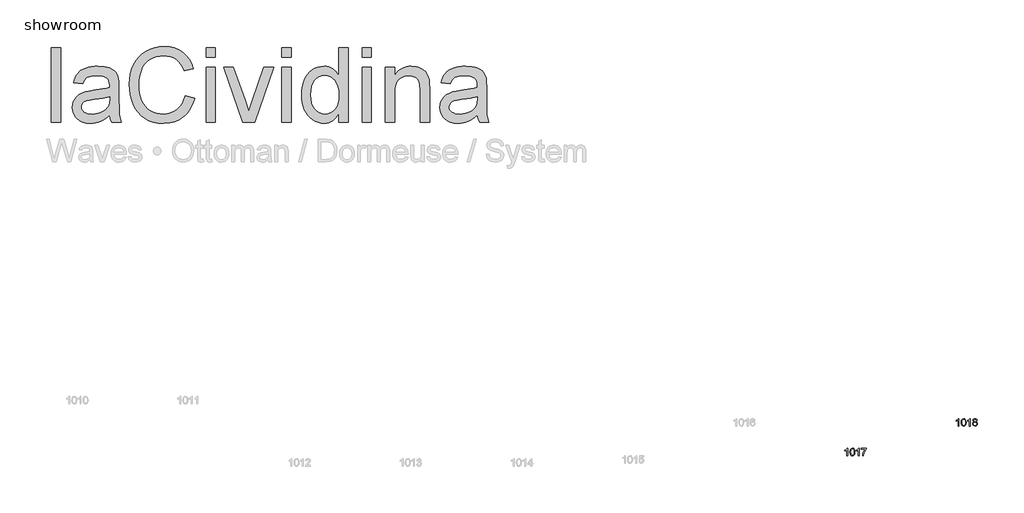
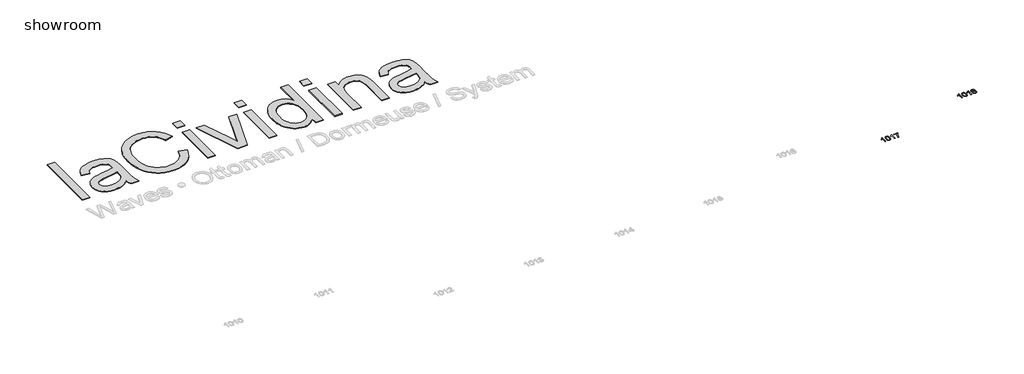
# One storey, part 3 of 3: 3 proxies.
"""IFC4 building model written with IfcOpenShell, lengths in millimetres."""

from ifc_helpers import new_model, si_unit, origin, origin_with_axes, place, context, project, spatial, polyline, outline, extrude, element, save

model = new_model("IFC4")

# Units and contexts
model_context = context("Model", 3, world=origin())
ifc_project = project(units=[si_unit("LENGTHUNIT", "METRE", prefix="MILLI")], contexts=[model_context])

# Site, building, storey
site = spatial("IfcSite", under=ifc_project)
building = spatial("IfcBuilding", under=site)
storey = spatial("IfcBuildingStorey", under=building, Name="showroom", Elevation=0.0)

# Proxies
placement = place(None, origin())
element("IfcBuildingElementProxy", 1, Name="1000mm Arial", ObjectType="1000mm Arial", at=placement, inside=storey, context=model_context, shape_type="SweptSolid", body=[
    extrude(outline(polyline([(-1952.8965336, 4695.1020807), (-1952.8965336, 5699.6651822), (-1827.326146, 5699.6651822), (-1827.326146, 4695.1020807), (-1952.8965336, 4695.1020807)])), origin_with_axes(), (0.0, 0.0, 1.0), 10.0),
    extrude(outline(polyline([(-1168.0816106, 4789.2798714), (-1197.8570596, 4761.3361682), (-1228.0770326, 4737.8377058), (-1258.7415298, 4718.7844841), (-1289.850551, 4704.1765032), (-1321.7566499, 4693.3393128), (-1354.81238, 4685.5984625), (-1389.0177413, 4680.9539523), (-1424.3727339, 4679.4057822), (-1480.283133, 4683.1305874), (-1529.311073, 4694.305003), (-1571.4565541, 4712.929029), (-1606.7195762, 4739.0026654), (-1634.5636447, 4770.8704433), (-1654.4522651, 4806.8768935), (-1666.3854373, 4847.0220163), (-1670.3631613, 4891.3058114), (-1664.3544221, 4943.3611138), (-1656.843498, 4967.5953402), (-1646.3282043, 4990.6339501), (-1618.5224569, 5031.1009696), (-1583.1751285, 5062.7388212), (-1541.6351199, 5086.6511509), (-1495.2513316, 5103.9416046), (-1450.0631599, 5113.5678502), (-1386.6035157, 5122.8262137), (-1258.2126994, 5142.6918415), (-1208.6406006, 5153.9122423), (-1168.8173746, 5165.9910345), (-1168.0816106, 5193.9500661), (-1170.2429173, 5224.3923012), (-1176.7268375, 5249.9907567), (-1187.5333711, 5270.7454326), (-1202.6625181, 5286.6563289), (-1228.8127966, 5302.5365684), (-1260.665246, 5313.8795966), (-1298.2198664, 5320.6854135), (-1341.4766577, 5322.9540191), (-1381.6984225, 5321.4441701), (-1416.27933, 5316.914623), (-1445.2193803, 5309.3653779), (-1468.5185733, 5298.7964348), (-1487.6637655, 5284.3800591), (-1504.1418132, 5265.2885164), (-1517.9527164, 5241.5218066), (-1529.0964752, 5213.0799299), (-1654.6668629, 5228.7762283), (-1645.1095952, 5264.9512912), (-1632.8698547, 5297.4475341), (-1617.9476412, 5326.2649571), (-1600.3429549, 5351.4035601), (-1579.2970391, 5373.3691809), (-1554.0511372, 5392.6676572), (-1524.6052492, 5409.2989891), (-1490.959375, 5423.2631765), (-1453.7956293, 5434.3149647), (-1413.7961265, 5442.2090992), (-1370.9608667, 5446.9455799), (-1325.2898499, 5448.5244068), (-1240.4010795, 5442.9448632), (-1204.5555776, 5435.9704337), (-1173.1093312, 5426.2062324), (-1122.3722727, 5401.0369726), (-1102.8208775, 5386.3140286), (-1087.1475717, 5370.1655418), (-1063.787065, 5331.9977848), (-1048.6425895, 5284.9395463), (-1044.0440646, 5241.5294708), (-1042.5112229, 5175.065457), (-1042.5112229, 5018.8382364), (-1040.9170676, 4882.752555), (-1036.1346017, 4800.6842133), (-1026.6922971, 4746.7588442), (-1011.118626, 4695.1020807), (-1136.6890137, 4695.1020807), (-1156.7998961, 4738.7574108), (-1168.0816106, 4789.2798714)]), holes=[polyline([(-1168.0816106, 5040.4206468), (-1252.4492148, 5019.5126868), (-1370.6619626, 5001.9156646), (-1435.8077326, 4992.2894191), (-1478.6966419, 4981.5595276), (-1506.8089577, 4967.6413254), (-1527.6249472, 4948.450148), (-1540.500817, 4925.4575233), (-1544.7927737, 4900.1349793), (-1542.4551901, 4880.6219052), (-1535.4424396, 4862.7949568), (-1523.7545221, 4846.6541343), (-1507.3914375, 4832.1994375), (-1486.50647, 4820.2892579), (-1461.2529039, 4811.7819868), (-1431.6307391, 4806.6776241), (-1397.6399756, 4804.9761699), (-1362.9364407, 4806.8539009), (-1330.1949431, 4812.487094), (-1299.4154829, 4821.8757491), (-1270.5980599, 4835.0198662), (-1244.6010656, 4850.8311278), (-1222.2828912, 4868.2212162), (-1203.6435368, 4887.1901316), (-1188.6830023, 4907.7378739), (-1179.9917902, 4926.1319736), (-1173.7837815, 4948.450148), (-1168.8173746, 5004.8587206), (-1168.0816106, 5040.4206468)])]), origin_with_axes(), (0.0, 0.0, 1.0), 10.0),
    extrude(outline(polyline([(-147.8222106, 5052.1928707), (-22.2518229, 5019.8192551), (-47.099186, 4941.7286374), (-80.1932372, 4873.4941915), (-121.5339764, 4815.1159174), (-145.296854, 4789.6228448), (-171.1214037, 4766.5938151), (-227.8365446, 4728.4490507), (-290.5604248, 4701.2027904), (-359.2930442, 4684.8550343), (-434.0344029, 4679.4057822), (-510.6075073, 4683.5291262), (-579.6850161, 4695.8991583), (-641.2669293, 4716.5158785), (-695.3532468, 4745.3792867), (-742.6873968, 4782.0601873), (-784.0128076, 4826.1293846), (-819.3294792, 4877.5868787), (-848.6374114, 4936.4326695), (-871.6530288, 5000.1222399), (-888.0927554, 5066.1110728), (-897.9565914, 5134.3991682), (-901.2445368, 5204.986526), (-897.5273958, 5280.7242317), (-886.3759728, 5351.4648737), (-867.7902678, 5417.208452), (-841.7702809, 5477.9549664), (-808.8984918, 5532.7004058), (-769.7573803, 5580.4407589), (-724.3469465, 5621.1760257), (-672.6671904, 5654.9062061), (-616.4732157, 5681.3553887), (-557.5201259, 5700.247662), (-495.8079212, 5711.583026), (-431.3366016, 5715.3614806), (-359.5153062, 5710.4717158), (-293.6567649, 5695.8024212), (-233.7609776, 5671.353597), (-179.8279442, 5637.125243), (-132.746713, 5594.0217359), (-93.4063322, 5542.9474522), (-61.8068016, 5483.902392), (-37.9481214, 5416.8865552), (-163.5185091, 5386.9654863), (-183.2921663, 5436.3459799), (-207.0512119, 5478.5374462), (-234.7956457, 5513.5398852), (-266.5254677, 5541.3532969), (-302.4246191, 5562.5448327), (-342.6770407, 5577.6816439), (-387.2827327, 5586.7637307), (-436.2416949, 5589.7910929), (-492.5736254, 5586.4341697), (-544.0924331, 5576.3634001), (-590.7981181, 5559.5787841), (-632.6906803, 5536.0803216), (-669.2412893, 5506.9256735), (-699.9211149, 5473.1725005), (-724.7301569, 5434.8208025), (-743.6684155, 5391.8705795), (-757.6709239, 5346.2685406), (-767.6727157, 5299.9613944), (-773.6737907, 5252.9491411), (-775.6741491, 5205.2317807), (-773.3059087, 5145.2670154), (-766.2011877, 5089.2263248), (-754.359986, 5037.1097089), (-737.7823036, 4988.9171675), (-716.1998932, 4945.6067268), (-689.3445075, 4908.1364127), (-657.2161466, 4876.5062253), (-619.8148104, 4850.7161646), (-578.9569164, 4830.7049169), (-536.4588817, 4816.4111686), (-492.3207065, 4807.8349196), (-446.5423907, 4804.9761699), (-391.9502355, 4808.8695877), (-341.7266789, 4820.549841), (-295.8717211, 4840.0169299), (-254.3853619, 4867.2708544), (-218.2486201, 4902.1889871), (-188.4425143, 4944.6487007), (-164.9670445, 4994.6499952), (-147.8222106, 5052.1928707)])), origin_with_axes(), (0.0, 0.0, 1.0), 10.0),
    extrude(outline(polyline([(134.7111617, 4695.1020807), (134.7111617, 5432.8281083), (260.2815493, 5432.8281083), (260.2815493, 4695.1020807), (134.7111617, 4695.1020807)])), origin_with_axes(), (0.0, 0.0, 1.0), 10.0),
    extrude(outline(polyline([(134.7111617, 5574.0947945), (134.7111617, 5699.6651822), (260.2815493, 5699.6651822), (260.2815493, 5574.0947945), (134.7111617, 5574.0947945)])), origin_with_axes(), (0.0, 0.0, 1.0), 10.0),
    extrude(outline(polyline([(629.6350725, 4695.1020807), (370.1556386, 5432.8281083), (503.0836662, 5432.8281083), (660.2919054, 4990.8792048), (707.6260555, 4842.2548787), (753.9791869, 4982.5405462), (912.1684448, 5432.8281083), (1045.0964724, 5432.8281083), (788.8053491, 4695.1020807), (629.6350725, 4695.1020807)])), origin_with_axes(), (0.0, 0.0, 1.0), 10.0),
    extrude(outline(polyline([(1154.9705616, 4695.1020807), (1154.9705616, 5432.8281083), (1280.5409493, 5432.8281083), (1280.5409493, 4695.1020807), (1154.9705616, 4695.1020807)])), origin_with_axes(), (0.0, 0.0, 1.0), 10.0),
    extrude(outline(polyline([(1154.9705616, 5574.0947945), (1154.9705616, 5699.6651822), (1280.5409493, 5699.6651822), (1280.5409493, 5574.0947945), (1154.9705616, 5574.0947945)])), origin_with_axes(), (0.0, 0.0, 1.0), 10.0),
    extrude(outline(polyline([(1924.0891862, 4695.1020807), (1924.0891862, 4813.5600831), (1906.2967268, 4782.1176688), (1886.5192374, 4754.8675765), (1864.7567182, 4731.809806), (1841.009169, 4712.9443574), (1815.2765898, 4698.2712308), (1787.5589807, 4687.790426), (1757.8563417, 4681.5019432), (1726.1686728, 4679.4057822), (1684.7206347, 4682.4408087), (1644.9893792, 4691.5458881), (1606.9749064, 4706.7210204), (1570.6772162, 4727.9662056), (1537.2306114, 4754.6453144), (1507.769395, 4786.1222176), (1482.2935668, 4822.3969152), (1460.8031269, 4863.4694071), (1443.7425994, 4908.5579442), (1431.5565083, 4956.8807771), (1424.2448537, 5008.4379059), (1421.8076355, 5063.2293305), (1424.0532485, 5117.0167439), (1430.7900875, 5168.2596401), (1442.0181526, 5216.9580192), (1457.7374436, 5263.1118812), (1477.9402965, 5305.3723254), (1502.6190471, 5342.3904512), (1531.7736952, 5374.1662585), (1565.4042409, 5400.6997474), (1602.322732, 5421.6230359), (1641.3412161, 5436.568242), (1682.4596932, 5445.5353656), (1725.6781635, 5448.5244068), (1757.2853582, 5446.3860927), (1787.1144567, 5439.9711504), (1815.1654588, 5429.2795799), (1841.4383646, 5414.3113812), (1865.6419342, 5395.9249457), (1887.4849277, 5374.9786646), (1906.967345, 5351.4725379), (1924.0891862, 5325.4065657), (1924.0891862, 5699.6651822), (2049.6595739, 5699.6651822), (2049.6595739, 4695.1020807), (1924.0891862, 4695.1020807)]), holes=[polyline([(1547.3780231, 5063.7198398), (1550.9188873, 5002.8277054), (1561.54148, 4950.1362738), (1579.245801, 4905.645545), (1604.0318504, 4869.3555191), (1633.6310226, 4841.1895538), (1665.7747119, 4821.0710072), (1700.4629184, 4808.9998792), (1737.695642, 4804.9761699), (1775.1046424, 4808.8159382), (1809.5859152, 4820.3352432), (1841.1394605, 4839.5340848), (1869.7652782, 4866.4124631), (1893.531988, 4901.1849758), (1910.5082092, 4944.0662209), (1920.693942, 4995.0561983), (1924.0891862, 5054.154908), (1920.6326283, 5118.9481244), (1910.2629545, 5174.5136341), (1892.980165, 5220.851437), (1868.7842596, 5257.9615333), (1839.5299768, 5286.3957458), (1807.0720549, 5306.7058977), (1771.410494, 5318.8919887), (1732.545294, 5322.9540191), (1694.5768065, 5319.0529371), (1659.8886, 5307.3496911), (1628.4806747, 5287.8442812), (1600.3530304, 5260.5367073), (1577.1764647, 5224.8291611), (1560.621775, 5180.1238345), (1550.6889611, 5126.4207274), (1547.3780231, 5063.7198398)])]), origin_with_axes(), (0.0, 0.0, 1.0), 10.0),
    extrude(outline(polyline([(2238.0151554, 4695.1020807), (2238.0151554, 5432.8281083), (2363.5855431, 5432.8281083), (2363.5855431, 4695.1020807), (2238.0151554, 4695.1020807)])), origin_with_axes(), (0.0, 0.0, 1.0), 10.0),
    extrude(outline(polyline([(2238.0151554, 5574.0947945), (2238.0151554, 5699.6651822), (2363.5855431, 5699.6651822), (2363.5855431, 5574.0947945), (2238.0151554, 5574.0947945)])), origin_with_axes(), (0.0, 0.0, 1.0), 10.0),
    extrude(outline(polyline([(2551.9411246, 4695.1020807), (2551.9411246, 5432.8281083), (2677.5115123, 5432.8281083), (2677.5115123, 5329.8211497), (2698.2278672, 5357.6422256), (2721.1361856, 5381.7538247), (2746.2364675, 5402.155947), (2773.5287131, 5418.8485925), (2803.0129221, 5431.8317613), (2834.6890948, 5441.1054532), (2868.5572309, 5446.6696684), (2904.6173307, 5448.5244068), (2966.5134764, 5442.5463244), (2995.5071761, 5435.0737213), (3023.1979605, 5424.6120771), (3048.5358329, 5411.7208789), (3070.4707968, 5396.9596138), (3089.0028523, 5380.3282819), (3104.1319994, 5361.8268833), (3126.9713399, 5319.305856), (3141.7785902, 5269.4885025), (3146.7449972, 5221.8477841), (3148.4004661, 5148.0874441), (3148.4004661, 4695.1020807), (3022.8300785, 4695.1020807), (3022.8300785, 5131.1648723), (3019.2125722, 5196.0960444), (3008.3600533, 5242.2652348), (2999.7378191, 5259.7319654), (2988.3411414, 5275.3439576), (2974.1700204, 5289.1012113), (2957.224456, 5301.0037267), (2917.3399163, 5317.466446), (2871.0174418, 5322.9540191), (2832.8880058, 5319.8730074), (2797.4716996, 5310.6299723), (2764.7685231, 5295.2249137), (2734.7784762, 5273.6578318), (2709.7241795, 5243.4761797), (2691.8282533, 5202.227411), (2681.0906976, 5149.9115256), (2677.5115123, 5086.5285235), (2677.5115123, 4695.1020807), (2551.9411246, 4695.1020807)])), origin_with_axes(), (0.0, 0.0, 1.0), 10.0),
    extrude(outline(polyline([(3791.948703, 4789.2798714), (3762.1732541, 4761.3361682), (3731.953281, 4737.8377058), (3701.2887839, 4718.7844841), (3670.1797626, 4704.1765032), (3638.2736638, 4693.3393128), (3605.2179337, 4685.5984625), (3571.0125723, 4680.9539523), (3535.6575797, 4679.4057822), (3479.7471807, 4683.1305874), (3430.7192406, 4694.305003), (3388.5737595, 4712.929029), (3353.3107375, 4739.0026654), (3325.466669, 4770.8704433), (3305.5780486, 4806.8768935), (3293.6448764, 4847.0220163), (3289.6671523, 4891.3058114), (3295.6758915, 4943.3611138), (3303.1868156, 4967.5953402), (3313.7021093, 4990.6339501), (3341.5078568, 5031.1009696), (3376.8551852, 5062.7388212), (3418.3951938, 5086.6511509), (3464.778982, 5103.9416046), (3509.9671537, 5113.5678502), (3573.4267979, 5122.8262137), (3701.8176142, 5142.6918415), (3751.3897131, 5153.9122423), (3791.2129391, 5165.9910345), (3791.948703, 5193.9500661), (3789.7873963, 5224.3923012), (3783.3034762, 5249.9907567), (3772.4969425, 5270.7454326), (3757.3677955, 5286.6563289), (3731.217517, 5302.5365684), (3699.3650676, 5313.8795966), (3661.8104472, 5320.6854135), (3618.553656, 5322.9540191), (3578.3318912, 5321.4441701), (3543.7509836, 5316.914623), (3514.8109333, 5309.3653779), (3491.5117403, 5298.7964348), (3472.3665481, 5284.3800591), (3455.8885004, 5265.2885164), (3442.0775972, 5241.5218066), (3430.9338384, 5213.0799299), (3305.3634508, 5228.7762283), (3314.9207184, 5264.9512912), (3327.160459, 5297.4475341), (3342.0826724, 5326.2649571), (3359.6873587, 5351.4035601), (3380.7332745, 5373.3691809), (3405.9791764, 5392.6676572), (3435.4250645, 5409.2989891), (3469.0709386, 5423.2631765), (3506.2346843, 5434.3149647), (3546.2341871, 5442.2090992), (3589.0694469, 5446.9455799), (3634.7404638, 5448.5244068), (3719.6292342, 5442.9448632), (3755.4747361, 5435.9704337), (3786.9209824, 5426.2062324), (3837.6580409, 5401.0369726), (3857.2094361, 5386.3140286), (3872.882742, 5370.1655418), (3896.2432487, 5331.9977848), (3911.3877241, 5284.9395463), (3915.9862491, 5241.5294708), (3917.5190907, 5175.065457), (3917.5190907, 5018.8382364), (3919.113246, 4882.752555), (3923.895712, 4800.6842133), (3933.3380165, 4746.7588442), (3948.9116877, 4695.1020807), (3823.3413, 4695.1020807), (3803.2304176, 4738.7574108), (3791.948703, 4789.2798714)]), holes=[polyline([(3791.948703, 5040.4206468), (3707.5810988, 5019.5126868), (3589.368351, 5001.9156646), (3524.2225811, 4992.2894191), (3481.3336718, 4981.5595276), (3453.221356, 4967.6413254), (3432.4053664, 4948.450148), (3419.5294966, 4925.4575233), (3415.23754, 4900.1349793), (3417.5751235, 4880.6219052), (3424.587874, 4862.7949568), (3436.2757916, 4846.6541343), (3452.6388762, 4832.1994375), (3473.5238436, 4820.2892579), (3498.7774097, 4811.7819868), (3528.3995745, 4806.6776241), (3562.3903381, 4804.9761699), (3597.0938729, 4806.8539009), (3629.8353705, 4812.487094), (3660.6148308, 4821.8757491), (3689.4322537, 4835.0198662), (3715.429248, 4850.8311278), (3737.7474224, 4868.2212162), (3756.3867768, 4887.1901316), (3771.3473113, 4907.7378739), (3780.0385234, 4926.1319736), (3786.2465321, 4948.450148), (3791.2129391, 5004.8587206), (3791.948703, 5040.4206468)])]), origin_with_axes(), (0.0, 0.0, 1.0), 10.0),
])
element("IfcBuildingElementProxy", 2, Name="100mm Arial", ObjectType="100mm Arial", at=placement, inside=storey, context=model_context, shape_type="SweptSolid", body=[
    extrude(outline(polyline([(8791.8890391, 195.1020807), (8779.3320004, 195.1020807), (8779.3320004, 273.3873692), (8767.4371492, 264.9138206), (8754.2179228, 258.5739876), (8754.2179228, 270.4443133), (8772.6242853, 282.1920117), (8783.7956352, 295.5583908), (8791.8890391, 295.5583908), (8791.8890391, 195.1020807)])), origin_with_axes(), (0.0, 0.0, 1.0), 2.0),
    extrude(outline(polyline([(8821.7120062, 244.5208954), (8825.4030889, 273.4241574), (8836.3659723, 290.0892118), (8854.674233, 295.5583908), (8869.3404618, 292.3210293), (8879.4694794, 282.9890893), (8885.3555914, 268.1266567), (8887.6364597, 244.5208954), (8883.9821653, 215.7402606), (8873.05607, 199.038418), (8864.8247104, 194.9089426), (8854.674233, 193.5324508), (8841.6266849, 195.9236838), (8831.7183965, 203.0973827), (8824.2136038, 220.0873995), (8821.7120062, 244.5208954)]), holes=[polyline([(8834.269045, 244.5454208), (8835.740573, 224.7932234), (8840.1551569, 213.3612904), (8846.7279819, 207.9074398), (8854.674233, 206.0894896), (8862.6204841, 207.9135712), (8869.193309, 213.3858158), (8873.607893, 224.8238802), (8875.079421, 244.5454208), (8873.6569439, 263.8530942), (8869.3895128, 275.373932), (8862.8289505, 281.094497), (8854.5270802, 283.0013521), (8846.6666682, 281.3213576), (8840.3513606, 276.2813743), (8835.7896239, 264.0431666), (8834.269045, 244.5454208)])]), origin_with_axes(), (0.0, 0.0, 1.0), 2.0),
    extrude(outline(polyline([(8945.712764, 195.1020807), (8933.1557253, 195.1020807), (8933.1557253, 273.3873692), (8921.2608741, 264.9138206), (8908.0416477, 258.5739876), (8908.0416477, 270.4443133), (8926.4480102, 282.1920117), (8937.6193601, 295.5583908), (8945.712764, 295.5583908), (8945.712764, 195.1020807)])), origin_with_axes(), (0.0, 0.0, 1.0), 2.0),
    extrude(outline(polyline([(8975.5357311, 281.4317222), (8975.5357311, 293.988761), (9041.4601847, 293.988761), (9041.4601847, 283.8352179), (9022.7595166, 256.8204167), (9008.448907, 222.3989247), (9003.7890683, 195.1020807), (8991.2320296, 195.1020807), (8996.222962, 223.4289943), (9009.9204349, 255.4469906), (9028.9031459, 281.4317222), (8975.5357311, 281.4317222)])), origin_with_axes(), (0.0, 0.0, 1.0), 2.0),
])
element("IfcBuildingElementProxy", 3, Name="100mm Arial", ObjectType="100mm Arial", at=placement, inside=storey, context=model_context, shape_type="SweptSolid", body=[
    extrude(outline(polyline([(10291.8890391, 595.1020807), (10279.3320004, 595.1020807), (10279.3320004, 673.3873692), (10267.4371492, 664.9138206), (10254.2179228, 658.5739876), (10254.2179228, 670.4443133), (10272.6242853, 682.1920117), (10283.7956352, 695.5583908), (10291.8890391, 695.5583908), (10291.8890391, 595.1020807)])), origin_with_axes(), (0.0, 0.0, 1.0), 2.0),
    extrude(outline(polyline([(10321.7120062, 644.5208954), (10325.4030889, 673.4241574), (10336.3659723, 690.0892118), (10354.674233, 695.5583908), (10369.3404618, 692.3210293), (10379.4694794, 682.9890893), (10385.3555914, 668.1266567), (10387.6364597, 644.5208954), (10383.9821653, 615.7402606), (10373.05607, 599.038418), (10364.8247104, 594.9089426), (10354.674233, 593.5324508), (10341.6266849, 595.9236838), (10331.7183965, 603.0973827), (10324.2136038, 620.0873995), (10321.7120062, 644.5208954)]), holes=[polyline([(10334.269045, 644.5454208), (10335.740573, 624.7932234), (10340.1551569, 613.3612904), (10346.7279819, 607.9074398), (10354.674233, 606.0894896), (10362.6204841, 607.9135712), (10369.193309, 613.3858158), (10373.607893, 624.8238802), (10375.079421, 644.5454208), (10373.6569439, 663.8530942), (10369.3895128, 675.373932), (10362.8289505, 681.094497), (10354.5270802, 683.0013521), (10346.6666682, 681.3213576), (10340.3513606, 676.2813743), (10335.7896239, 664.0431666), (10334.269045, 644.5454208)])]), origin_with_axes(), (0.0, 0.0, 1.0), 2.0),
    extrude(outline(polyline([(10445.712764, 595.1020807), (10433.1557253, 595.1020807), (10433.1557253, 673.3873692), (10421.2608741, 664.9138206), (10408.0416477, 658.5739876), (10408.0416477, 670.4443133), (10426.4480102, 682.1920117), (10437.6193601, 695.5583908), (10445.712764, 695.5583908), (10445.712764, 595.1020807)])), origin_with_axes(), (0.0, 0.0, 1.0), 2.0),
    extrude(outline(polyline([(10493.831729, 650.4315327), (10482.390599, 658.230631), (10478.6749908, 670.3707369), (10480.6983418, 680.1870548), (10486.7683947, 688.2988528), (10496.2045679, 693.7435063), (10508.3262796, 695.5583908), (10520.5215678, 693.7005867), (10530.0803683, 688.1271745), (10536.2607858, 679.8866178), (10538.320925, 670.0273804), (10534.6543677, 658.1938428), (10523.5320688, 650.4315327), (10536.8861852, 640.584558), (10541.4601847, 624.3364366), (10539.191579, 612.3312208), (10532.3857621, 602.4106696), (10521.8765998, 595.7520055), (10508.4979579, 593.5324508), (10495.119316, 595.7612026), (10484.6101537, 602.4474578), (10477.8043368, 612.4630452), (10475.5357311, 624.6797931), (10480.2936716, 641.3080593), (10493.831729, 650.4315327)]), holes=[polyline([(10488.0927699, 625.1212515), (10490.1896973, 615.6666842), (10497.6086508, 608.5910872), (10508.5960598, 606.0894896), (10517.1431848, 607.4046677), (10523.5565942, 611.3502021), (10528.9031459, 624.728844), (10523.384916, 638.3650033), (10516.8243537, 642.4117053), (10508.1791268, 643.7606059), (10499.7515635, 642.4300994), (10493.4025334, 638.4385797), (10488.0927699, 625.1212515)]), polyline([(10491.2320296, 670.0028549), (10495.6834017, 660.1436174), (10508.6451107, 656.3176447), (10521.3493023, 660.119092), (10525.7638862, 669.4387692), (10521.2021495, 679.0895402), (10508.4979579, 683.0013521), (10495.7569781, 679.1753793), (10491.2320296, 670.0028549)])]), origin_with_axes(), (0.0, 0.0, 1.0), 2.0),
])

save(model, "model.ifc")
